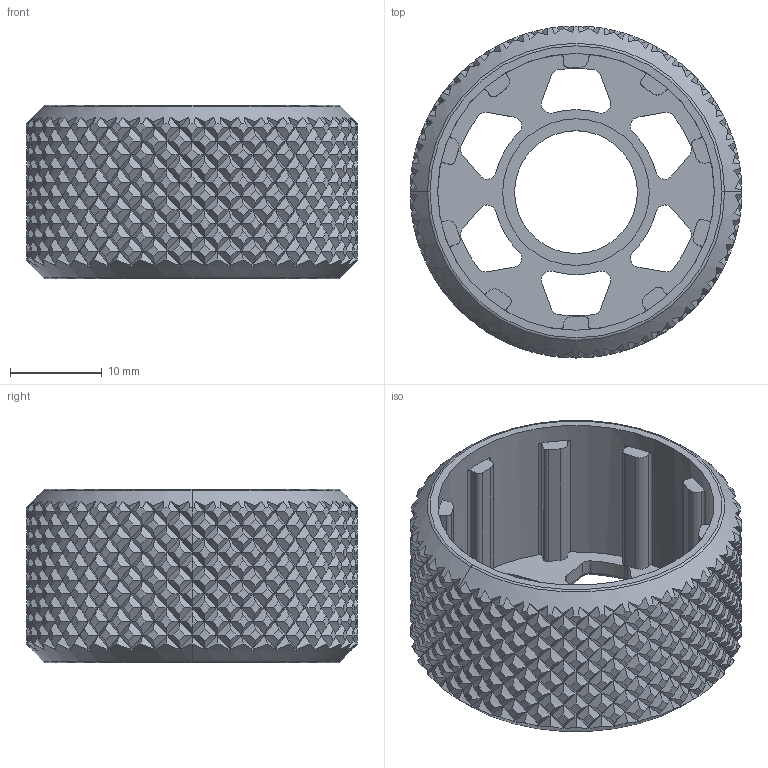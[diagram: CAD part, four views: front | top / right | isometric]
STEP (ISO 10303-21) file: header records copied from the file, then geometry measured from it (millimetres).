
FILE_DESCRIPTION (( 'STEP AP214' ), '1' );
FILE_NAME ('Torque-Case-A.STEP', '2020-05-03T10:35:07', ( 'Valera' ), ( '' ), 'SwSTEP 2.0', 'SolidWorks 2020', '' );
FILE_SCHEMA (( 'AUTOMOTIVE_DESIGN' ));
Products named in the file (1): Torque-Case-A
Bounding box: 36.2 x 36.2 x 18.9 mm (x, y, z)
Volume: 6296.1 mm3; surface area: 6243.3 mm2
Topology: 1 solids, 1 shells, 2582 faces, 5462 edges, 2884 vertices
Faces by surface type: bspline 1920, cylinder 554, plane 56, torus 48, cone 4
Entity records: 126820 total; most frequent: CARTESIAN_POINT 93409, ORIENTED_EDGE 10924, EDGE_CURVE 5462, VERTEX_POINT 2884, EDGE_LOOP 2598, FACE_OUTER_BOUND 2582, ADVANCED_FACE 2582, DIRECTION 2396
